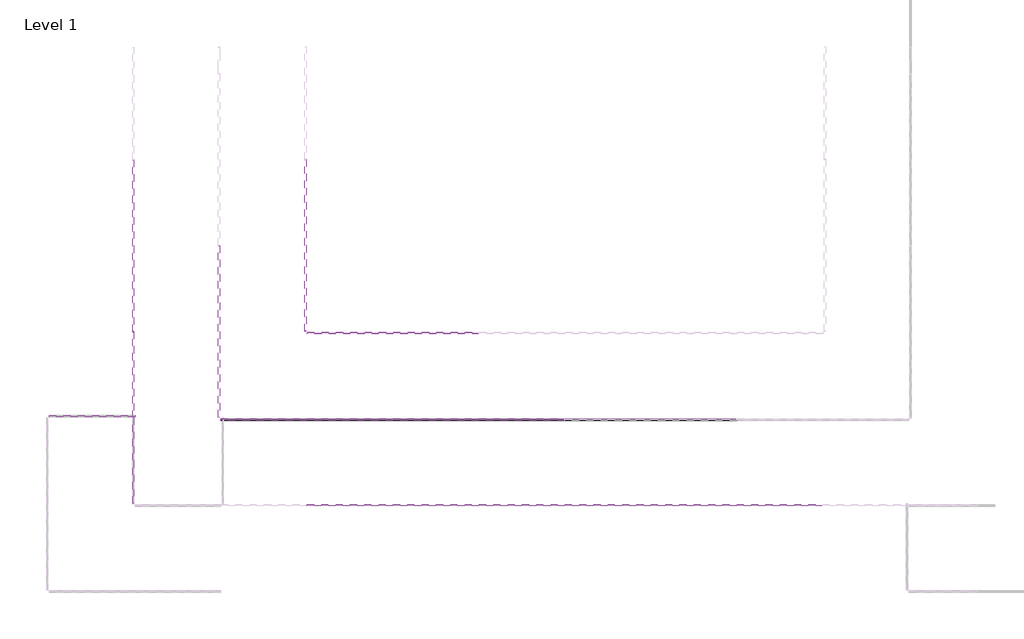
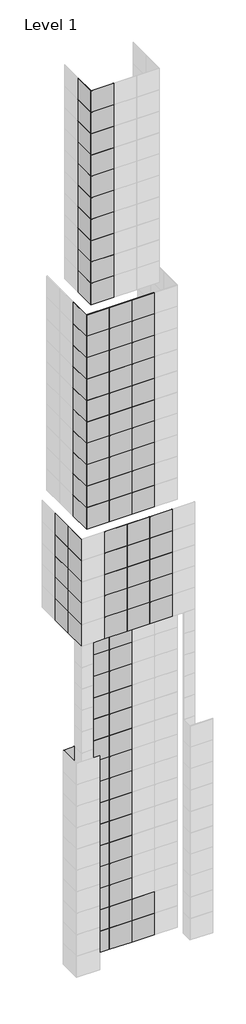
# One storey, part 5 of 15: 135 plates.
"""IFC4 building model written with IfcOpenShell, lengths in millimetres."""

from ifc_helpers import new_model, si_unit, origin, place, context, project, spatial, transform, mapped, element, save
from components import system_panel_glazed_9c75bc08, system_panel_glazed_0a0842ec, system_panel_glazed_aa64d645, system_panel_glazed_b248394d

model = new_model("IFC4")

# Units and contexts
model_context = context("Model", 3, world=origin())
ifc_project = project(units=[si_unit("LENGTHUNIT", "METRE", prefix="MILLI")], contexts=[model_context])

# Site, building, storey
site = spatial("IfcSite", under=ifc_project)
building = spatial("IfcBuilding", under=site)
storey = spatial("IfcBuildingStorey", under=building, Name="Level 1", Elevation=0.0)

# Plates
placement = place(None, origin())
system_panel_glazed_shape = system_panel_glazed_9c75bc08(model_context)
element("IfcPlate", 1, ObjectType="System Panel : Glazed", at=placement, inside=storey, context=model_context, shape_type="MappedRepresentation", body=[
    mapped(system_panel_glazed_shape, transform((35832.2903978, -3840.9095598, 6096.0), x_axis=(-1.0, 0.0, 0.0), y_axis=(0.0, -1.0, 0.0), z_axis=(0.0, 0.0, 1.0))),
])
element("IfcPlate", 2, ObjectType="System Panel : Glazed", at=placement, inside=storey, context=model_context, shape_type="MappedRepresentation", body=[
    mapped(system_panel_glazed_shape, transform((35832.2903978, -3840.9095598, 9144.0), x_axis=(-1.0, 0.0, 0.0), y_axis=(0.0, -1.0, 0.0), z_axis=(0.0, 0.0, 1.0))),
])
element("IfcPlate", 3, ObjectType="System Panel : Glazed", at=placement, inside=storey, context=model_context, shape_type="MappedRepresentation", body=[
    mapped(system_panel_glazed_shape, transform((35832.2903978, -3840.9095598, 12192.0), x_axis=(-1.0, 0.0, 0.0), y_axis=(0.0, -1.0, 0.0), z_axis=(0.0, 0.0, 1.0))),
])
element("IfcPlate", 4, ObjectType="System Panel : Glazed", at=placement, inside=storey, context=model_context, shape_type="MappedRepresentation", body=[
    mapped(system_panel_glazed_shape, transform((35832.2903978, -3840.9095598, 15240.0), x_axis=(-1.0, 0.0, 0.0), y_axis=(0.0, -1.0, 0.0), z_axis=(0.0, 0.0, 1.0))),
])
element("IfcPlate", 5, ObjectType="System Panel : Glazed", at=placement, inside=storey, context=model_context, shape_type="MappedRepresentation", body=[
    mapped(system_panel_glazed_shape, transform((35832.2903978, -3840.9095598, 18288.0), x_axis=(-1.0, 0.0, 0.0), y_axis=(0.0, -1.0, 0.0), z_axis=(0.0, 0.0, 1.0))),
])
element("IfcPlate", 6, ObjectType="System Panel : Glazed", at=placement, inside=storey, context=model_context, shape_type="MappedRepresentation", body=[
    mapped(system_panel_glazed_shape, transform((35832.2903978, -3840.9095598, 21336.0), x_axis=(-1.0, 0.0, 0.0), y_axis=(0.0, -1.0, 0.0), z_axis=(0.0, 0.0, 1.0))),
])
element("IfcPlate", 7, ObjectType="System Panel : Glazed", at=placement, inside=storey, context=model_context, shape_type="MappedRepresentation", body=[
    mapped(system_panel_glazed_shape, transform((35832.2903978, -3840.9095598, 24384.0), x_axis=(-1.0, 0.0, 0.0), y_axis=(0.0, -1.0, 0.0), z_axis=(0.0, 0.0, 1.0))),
])
element("IfcPlate", 8, ObjectType="System Panel : Glazed", at=placement, inside=storey, context=model_context, shape_type="MappedRepresentation", body=[
    mapped(system_panel_glazed_shape, transform((35832.2903978, -3840.9095598, 27432.0), x_axis=(-1.0, 0.0, 0.0), y_axis=(0.0, -1.0, 0.0), z_axis=(0.0, 0.0, 1.0))),
])
system_panel_glazed_2_shape = system_panel_glazed_0a0842ec(model_context)
element("IfcPlate", 9, ObjectType="System Panel : Glazed", at=placement, inside=storey, context=model_context, shape_type="MappedRepresentation", body=[
    mapped(system_panel_glazed_2_shape, transform((36594.2903978, -3840.9095598, 45720.0), x_axis=(0.0, -1.0, 0.0), y_axis=(1.0, 0.0, 0.0), z_axis=(0.0, 0.0, 1.0))),
])
element("IfcPlate", 10, ObjectType="System Panel : Glazed", at=placement, inside=storey, context=model_context, shape_type="MappedRepresentation", body=[
    mapped(system_panel_glazed_2_shape, transform((36594.2903978, -3840.9095598, 45720.0), x_axis=(0.0, -1.0, 0.0), y_axis=(1.0, 0.0, 0.0), z_axis=(0.0, 0.0, 1.0))),
])
system_panel_glazed_3_shape = system_panel_glazed_aa64d645(model_context)
element("IfcPlate", 11, ObjectType="System Panel : Glazed", at=placement, inside=storey, context=model_context, shape_type="MappedRepresentation", body=[
    mapped(system_panel_glazed_3_shape, transform((41166.2903978, -5364.9095598, 45720.0), x_axis=(1.0, 0.0, 0.0), y_axis=(0.0, 1.0, 0.0), z_axis=(0.0, 0.0, 1.0))),
])
element("IfcPlate", 12, ObjectType="System Panel : Glazed", at=placement, inside=storey, context=model_context, shape_type="MappedRepresentation", body=[
    mapped(system_panel_glazed_3_shape, transform((44214.2903978, -5364.9095598, 45720.0), x_axis=(1.0, 0.0, 0.0), y_axis=(0.0, 1.0, 0.0), z_axis=(0.0, 0.0, 1.0))),
])
element("IfcPlate", 13, ObjectType="System Panel : Glazed", at=placement, inside=storey, context=model_context, shape_type="MappedRepresentation", body=[
    mapped(system_panel_glazed_3_shape, transform((47262.2903978, -5364.9095598, 45720.0), x_axis=(1.0, 0.0, 0.0), y_axis=(0.0, 1.0, 0.0), z_axis=(0.0, 0.0, 1.0))),
])
element("IfcPlate", 14, ObjectType="System Panel : Glazed", at=placement, inside=storey, context=model_context, shape_type="MappedRepresentation", body=[
    mapped(system_panel_glazed_3_shape, transform((41166.2903978, -5364.9095598, 48768.0), x_axis=(1.0, 0.0, 0.0), y_axis=(0.0, 1.0, 0.0), z_axis=(0.0, 0.0, 1.0))),
])
element("IfcPlate", 15, ObjectType="System Panel : Glazed", at=placement, inside=storey, context=model_context, shape_type="MappedRepresentation", body=[
    mapped(system_panel_glazed_3_shape, transform((44214.2903978, -5364.9095598, 48768.0), x_axis=(1.0, 0.0, 0.0), y_axis=(0.0, 1.0, 0.0), z_axis=(0.0, 0.0, 1.0))),
])
element("IfcPlate", 16, ObjectType="System Panel : Glazed", at=placement, inside=storey, context=model_context, shape_type="MappedRepresentation", body=[
    mapped(system_panel_glazed_3_shape, transform((47262.2903978, -5364.9095598, 48768.0), x_axis=(1.0, 0.0, 0.0), y_axis=(0.0, 1.0, 0.0), z_axis=(0.0, 0.0, 1.0))),
])
element("IfcPlate", 17, ObjectType="System Panel : Glazed", at=placement, inside=storey, context=model_context, shape_type="MappedRepresentation", body=[
    mapped(system_panel_glazed_3_shape, transform((41166.2903978, -5364.9095598, 51816.0), x_axis=(1.0, 0.0, 0.0), y_axis=(0.0, 1.0, 0.0), z_axis=(0.0, 0.0, 1.0))),
])
element("IfcPlate", 18, ObjectType="System Panel : Glazed", at=placement, inside=storey, context=model_context, shape_type="MappedRepresentation", body=[
    mapped(system_panel_glazed_3_shape, transform((44214.2903978, -5364.9095598, 51816.0), x_axis=(1.0, 0.0, 0.0), y_axis=(0.0, 1.0, 0.0), z_axis=(0.0, 0.0, 1.0))),
])
element("IfcPlate", 19, ObjectType="System Panel : Glazed", at=placement, inside=storey, context=model_context, shape_type="MappedRepresentation", body=[
    mapped(system_panel_glazed_3_shape, transform((47262.2903978, -5364.9095598, 51816.0), x_axis=(1.0, 0.0, 0.0), y_axis=(0.0, 1.0, 0.0), z_axis=(0.0, 0.0, 1.0))),
])
element("IfcPlate", 20, ObjectType="System Panel : Glazed", at=placement, inside=storey, context=model_context, shape_type="MappedRepresentation", body=[
    mapped(system_panel_glazed_3_shape, transform((41166.2903978, -5364.9095598, 54864.0), x_axis=(1.0, 0.0, 0.0), y_axis=(0.0, 1.0, 0.0), z_axis=(0.0, 0.0, 1.0))),
])
element("IfcPlate", 21, ObjectType="System Panel : Glazed", at=placement, inside=storey, context=model_context, shape_type="MappedRepresentation", body=[
    mapped(system_panel_glazed_3_shape, transform((44214.2903978, -5364.9095598, 54864.0), x_axis=(1.0, 0.0, 0.0), y_axis=(0.0, 1.0, 0.0), z_axis=(0.0, 0.0, 1.0))),
])
element("IfcPlate", 22, ObjectType="System Panel : Glazed", at=placement, inside=storey, context=model_context, shape_type="MappedRepresentation", body=[
    mapped(system_panel_glazed_3_shape, transform((47262.2903978, -5364.9095598, 54864.0), x_axis=(1.0, 0.0, 0.0), y_axis=(0.0, 1.0, 0.0), z_axis=(0.0, 0.0, 1.0))),
])
element("IfcPlate", 23, ObjectType="System Panel : Glazed", at=placement, inside=storey, context=model_context, shape_type="MappedRepresentation", body=[
    mapped(system_panel_glazed_3_shape, transform((41166.2903978, -5364.9095598, 57912.0), x_axis=(1.0, 0.0, 0.0), y_axis=(0.0, 1.0, 0.0), z_axis=(0.0, 0.0, 1.0))),
])
element("IfcPlate", 24, ObjectType="System Panel : Glazed", at=placement, inside=storey, context=model_context, shape_type="MappedRepresentation", body=[
    mapped(system_panel_glazed_3_shape, transform((44214.2903978, -5364.9095598, 57912.0), x_axis=(1.0, 0.0, 0.0), y_axis=(0.0, 1.0, 0.0), z_axis=(0.0, 0.0, 1.0))),
])
element("IfcPlate", 25, ObjectType="System Panel : Glazed", at=placement, inside=storey, context=model_context, shape_type="MappedRepresentation", body=[
    mapped(system_panel_glazed_3_shape, transform((47262.2903978, -5364.9095598, 57912.0), x_axis=(1.0, 0.0, 0.0), y_axis=(0.0, 1.0, 0.0), z_axis=(0.0, 0.0, 1.0))),
])
element("IfcPlate", 26, ObjectType="System Panel : Glazed", at=placement, inside=storey, context=model_context, shape_type="MappedRepresentation", body=[
    mapped(system_panel_glazed_3_shape, transform((36594.2903978, -792.9095598, 45720.0), x_axis=(0.0, -1.0, 0.0), y_axis=(1.0, 0.0, 0.0), z_axis=(0.0, 0.0, 1.0))),
])
element("IfcPlate", 27, ObjectType="System Panel : Glazed", at=placement, inside=storey, context=model_context, shape_type="MappedRepresentation", body=[
    mapped(system_panel_glazed_3_shape, transform((36594.2903978, -792.9095598, 48768.0), x_axis=(0.0, -1.0, 0.0), y_axis=(1.0, 0.0, 0.0), z_axis=(0.0, 0.0, 1.0))),
])
element("IfcPlate", 28, ObjectType="System Panel : Glazed", at=placement, inside=storey, context=model_context, shape_type="MappedRepresentation", body=[
    mapped(system_panel_glazed_3_shape, transform((36594.2903978, -3840.9095598, 48768.0), x_axis=(0.0, -1.0, 0.0), y_axis=(1.0, 0.0, 0.0), z_axis=(0.0, 0.0, 1.0))),
])
element("IfcPlate", 29, ObjectType="System Panel : Glazed", at=placement, inside=storey, context=model_context, shape_type="MappedRepresentation", body=[
    mapped(system_panel_glazed_3_shape, transform((36594.2903978, -792.9095598, 51816.0), x_axis=(0.0, -1.0, 0.0), y_axis=(1.0, 0.0, 0.0), z_axis=(0.0, 0.0, 1.0))),
])
element("IfcPlate", 30, ObjectType="System Panel : Glazed", at=placement, inside=storey, context=model_context, shape_type="MappedRepresentation", body=[
    mapped(system_panel_glazed_3_shape, transform((36594.2903978, -3840.9095598, 51816.0), x_axis=(0.0, -1.0, 0.0), y_axis=(1.0, 0.0, 0.0), z_axis=(0.0, 0.0, 1.0))),
])
element("IfcPlate", 31, ObjectType="System Panel : Glazed", at=placement, inside=storey, context=model_context, shape_type="MappedRepresentation", body=[
    mapped(system_panel_glazed_3_shape, transform((36594.2903978, -792.9095598, 54864.0), x_axis=(0.0, -1.0, 0.0), y_axis=(1.0, 0.0, 0.0), z_axis=(0.0, 0.0, 1.0))),
])
element("IfcPlate", 32, ObjectType="System Panel : Glazed", at=placement, inside=storey, context=model_context, shape_type="MappedRepresentation", body=[
    mapped(system_panel_glazed_3_shape, transform((36594.2903978, -3840.9095598, 54864.0), x_axis=(0.0, -1.0, 0.0), y_axis=(1.0, 0.0, 0.0), z_axis=(0.0, 0.0, 1.0))),
])
element("IfcPlate", 33, ObjectType="System Panel : Glazed", at=placement, inside=storey, context=model_context, shape_type="MappedRepresentation", body=[
    mapped(system_panel_glazed_3_shape, transform((36594.2903978, -792.9095598, 57912.0), x_axis=(0.0, -1.0, 0.0), y_axis=(1.0, 0.0, 0.0), z_axis=(0.0, 0.0, 1.0))),
])
element("IfcPlate", 34, ObjectType="System Panel : Glazed", at=placement, inside=storey, context=model_context, shape_type="MappedRepresentation", body=[
    mapped(system_panel_glazed_3_shape, transform((36594.2903978, -3840.9095598, 57912.0), x_axis=(0.0, -1.0, 0.0), y_axis=(1.0, 0.0, 0.0), z_axis=(0.0, 0.0, 1.0))),
])
element("IfcPlate", 35, ObjectType="System Panel : Glazed", at=placement, inside=storey, context=model_context, shape_type="MappedRepresentation", body=[
    mapped(system_panel_glazed_3_shape, transform((39642.2903978, -3840.9095598, 60960.0), x_axis=(1.0, 0.0, 0.0), y_axis=(0.0, 1.0, 0.0), z_axis=(0.0, 0.0, 1.0))),
])
element("IfcPlate", 36, ObjectType="System Panel : Glazed", at=placement, inside=storey, context=model_context, shape_type="MappedRepresentation", body=[
    mapped(system_panel_glazed_3_shape, transform((42690.2903978, -3840.9095598, 60960.0), x_axis=(1.0, 0.0, 0.0), y_axis=(0.0, 1.0, 0.0), z_axis=(0.0, 0.0, 1.0))),
])
element("IfcPlate", 37, ObjectType="System Panel : Glazed", at=placement, inside=storey, context=model_context, shape_type="MappedRepresentation", body=[
    mapped(system_panel_glazed_3_shape, transform((45738.2903978, -3840.9095598, 60960.0), x_axis=(1.0, 0.0, 0.0), y_axis=(0.0, 1.0, 0.0), z_axis=(0.0, 0.0, 1.0))),
])
element("IfcPlate", 38, ObjectType="System Panel : Glazed", at=placement, inside=storey, context=model_context, shape_type="MappedRepresentation", body=[
    mapped(system_panel_glazed_3_shape, transform((39642.2903978, -3840.9095598, 64008.0), x_axis=(1.0, 0.0, 0.0), y_axis=(0.0, 1.0, 0.0), z_axis=(0.0, 0.0, 1.0))),
])
element("IfcPlate", 39, ObjectType="System Panel : Glazed", at=placement, inside=storey, context=model_context, shape_type="MappedRepresentation", body=[
    mapped(system_panel_glazed_3_shape, transform((42690.2903978, -3840.9095598, 64008.0), x_axis=(1.0, 0.0, 0.0), y_axis=(0.0, 1.0, 0.0), z_axis=(0.0, 0.0, 1.0))),
])
element("IfcPlate", 40, ObjectType="System Panel : Glazed", at=placement, inside=storey, context=model_context, shape_type="MappedRepresentation", body=[
    mapped(system_panel_glazed_3_shape, transform((45738.2903978, -3840.9095598, 64008.0), x_axis=(1.0, 0.0, 0.0), y_axis=(0.0, 1.0, 0.0), z_axis=(0.0, 0.0, 1.0))),
])
element("IfcPlate", 41, ObjectType="System Panel : Glazed", at=placement, inside=storey, context=model_context, shape_type="MappedRepresentation", body=[
    mapped(system_panel_glazed_3_shape, transform((39642.2903978, -3840.9095598, 67056.0), x_axis=(1.0, 0.0, 0.0), y_axis=(0.0, 1.0, 0.0), z_axis=(0.0, 0.0, 1.0))),
])
element("IfcPlate", 42, ObjectType="System Panel : Glazed", at=placement, inside=storey, context=model_context, shape_type="MappedRepresentation", body=[
    mapped(system_panel_glazed_3_shape, transform((42690.2903978, -3840.9095598, 67056.0), x_axis=(1.0, 0.0, 0.0), y_axis=(0.0, 1.0, 0.0), z_axis=(0.0, 0.0, 1.0))),
])
element("IfcPlate", 43, ObjectType="System Panel : Glazed", at=placement, inside=storey, context=model_context, shape_type="MappedRepresentation", body=[
    mapped(system_panel_glazed_3_shape, transform((45738.2903978, -3840.9095598, 67056.0), x_axis=(1.0, 0.0, 0.0), y_axis=(0.0, 1.0, 0.0), z_axis=(0.0, 0.0, 1.0))),
])
element("IfcPlate", 44, ObjectType="System Panel : Glazed", at=placement, inside=storey, context=model_context, shape_type="MappedRepresentation", body=[
    mapped(system_panel_glazed_3_shape, transform((39642.2903978, -3840.9095598, 70104.0), x_axis=(1.0, 0.0, 0.0), y_axis=(0.0, 1.0, 0.0), z_axis=(0.0, 0.0, 1.0))),
])
element("IfcPlate", 45, ObjectType="System Panel : Glazed", at=placement, inside=storey, context=model_context, shape_type="MappedRepresentation", body=[
    mapped(system_panel_glazed_3_shape, transform((42690.2903978, -3840.9095598, 70104.0), x_axis=(1.0, 0.0, 0.0), y_axis=(0.0, 1.0, 0.0), z_axis=(0.0, 0.0, 1.0))),
])
element("IfcPlate", 46, ObjectType="System Panel : Glazed", at=placement, inside=storey, context=model_context, shape_type="MappedRepresentation", body=[
    mapped(system_panel_glazed_3_shape, transform((45738.2903978, -3840.9095598, 70104.0), x_axis=(1.0, 0.0, 0.0), y_axis=(0.0, 1.0, 0.0), z_axis=(0.0, 0.0, 1.0))),
])
element("IfcPlate", 47, ObjectType="System Panel : Glazed", at=placement, inside=storey, context=model_context, shape_type="MappedRepresentation", body=[
    mapped(system_panel_glazed_3_shape, transform((39642.2903978, -3840.9095598, 73152.0), x_axis=(1.0, 0.0, 0.0), y_axis=(0.0, 1.0, 0.0), z_axis=(0.0, 0.0, 1.0))),
])
element("IfcPlate", 48, ObjectType="System Panel : Glazed", at=placement, inside=storey, context=model_context, shape_type="MappedRepresentation", body=[
    mapped(system_panel_glazed_3_shape, transform((42690.2903978, -3840.9095598, 73152.0), x_axis=(1.0, 0.0, 0.0), y_axis=(0.0, 1.0, 0.0), z_axis=(0.0, 0.0, 1.0))),
])
element("IfcPlate", 49, ObjectType="System Panel : Glazed", at=placement, inside=storey, context=model_context, shape_type="MappedRepresentation", body=[
    mapped(system_panel_glazed_3_shape, transform((45738.2903978, -3840.9095598, 73152.0), x_axis=(1.0, 0.0, 0.0), y_axis=(0.0, 1.0, 0.0), z_axis=(0.0, 0.0, 1.0))),
])
element("IfcPlate", 50, ObjectType="System Panel : Glazed", at=placement, inside=storey, context=model_context, shape_type="MappedRepresentation", body=[
    mapped(system_panel_glazed_3_shape, transform((39642.2903978, -3840.9095598, 76200.0), x_axis=(1.0, 0.0, 0.0), y_axis=(0.0, 1.0, 0.0), z_axis=(0.0, 0.0, 1.0))),
])
element("IfcPlate", 51, ObjectType="System Panel : Glazed", at=placement, inside=storey, context=model_context, shape_type="MappedRepresentation", body=[
    mapped(system_panel_glazed_3_shape, transform((42690.2903978, -3840.9095598, 76200.0), x_axis=(1.0, 0.0, 0.0), y_axis=(0.0, 1.0, 0.0), z_axis=(0.0, 0.0, 1.0))),
])
element("IfcPlate", 52, ObjectType="System Panel : Glazed", at=placement, inside=storey, context=model_context, shape_type="MappedRepresentation", body=[
    mapped(system_panel_glazed_3_shape, transform((45738.2903978, -3840.9095598, 76200.0), x_axis=(1.0, 0.0, 0.0), y_axis=(0.0, 1.0, 0.0), z_axis=(0.0, 0.0, 1.0))),
])
element("IfcPlate", 53, ObjectType="System Panel : Glazed", at=placement, inside=storey, context=model_context, shape_type="MappedRepresentation", body=[
    mapped(system_panel_glazed_3_shape, transform((39642.2903978, -3840.9095598, 79248.0), x_axis=(1.0, 0.0, 0.0), y_axis=(0.0, 1.0, 0.0), z_axis=(0.0, 0.0, 1.0))),
])
element("IfcPlate", 54, ObjectType="System Panel : Glazed", at=placement, inside=storey, context=model_context, shape_type="MappedRepresentation", body=[
    mapped(system_panel_glazed_3_shape, transform((42690.2903978, -3840.9095598, 79248.0), x_axis=(1.0, 0.0, 0.0), y_axis=(0.0, 1.0, 0.0), z_axis=(0.0, 0.0, 1.0))),
])
element("IfcPlate", 55, ObjectType="System Panel : Glazed", at=placement, inside=storey, context=model_context, shape_type="MappedRepresentation", body=[
    mapped(system_panel_glazed_3_shape, transform((45738.2903978, -3840.9095598, 79248.0), x_axis=(1.0, 0.0, 0.0), y_axis=(0.0, 1.0, 0.0), z_axis=(0.0, 0.0, 1.0))),
])
element("IfcPlate", 56, ObjectType="System Panel : Glazed", at=placement, inside=storey, context=model_context, shape_type="MappedRepresentation", body=[
    mapped(system_panel_glazed_3_shape, transform((39642.2903978, -3840.9095598, 82296.0), x_axis=(1.0, 0.0, 0.0), y_axis=(0.0, 1.0, 0.0), z_axis=(0.0, 0.0, 1.0))),
])
element("IfcPlate", 57, ObjectType="System Panel : Glazed", at=placement, inside=storey, context=model_context, shape_type="MappedRepresentation", body=[
    mapped(system_panel_glazed_3_shape, transform((42690.2903978, -3840.9095598, 82296.0), x_axis=(1.0, 0.0, 0.0), y_axis=(0.0, 1.0, 0.0), z_axis=(0.0, 0.0, 1.0))),
])
element("IfcPlate", 58, ObjectType="System Panel : Glazed", at=placement, inside=storey, context=model_context, shape_type="MappedRepresentation", body=[
    mapped(system_panel_glazed_3_shape, transform((45738.2903978, -3840.9095598, 82296.0), x_axis=(1.0, 0.0, 0.0), y_axis=(0.0, 1.0, 0.0), z_axis=(0.0, 0.0, 1.0))),
])
element("IfcPlate", 59, ObjectType="System Panel : Glazed", at=placement, inside=storey, context=model_context, shape_type="MappedRepresentation", body=[
    mapped(system_panel_glazed_3_shape, transform((39642.2903978, -3840.9095598, 85344.0), x_axis=(1.0, 0.0, 0.0), y_axis=(0.0, 1.0, 0.0), z_axis=(0.0, 0.0, 1.0))),
])
element("IfcPlate", 60, ObjectType="System Panel : Glazed", at=placement, inside=storey, context=model_context, shape_type="MappedRepresentation", body=[
    mapped(system_panel_glazed_3_shape, transform((42690.2903978, -3840.9095598, 85344.0), x_axis=(1.0, 0.0, 0.0), y_axis=(0.0, 1.0, 0.0), z_axis=(0.0, 0.0, 1.0))),
])
element("IfcPlate", 61, ObjectType="System Panel : Glazed", at=placement, inside=storey, context=model_context, shape_type="MappedRepresentation", body=[
    mapped(system_panel_glazed_3_shape, transform((45738.2903978, -3840.9095598, 85344.0), x_axis=(1.0, 0.0, 0.0), y_axis=(0.0, 1.0, 0.0), z_axis=(0.0, 0.0, 1.0))),
])
element("IfcPlate", 62, ObjectType="System Panel : Glazed", at=placement, inside=storey, context=model_context, shape_type="MappedRepresentation", body=[
    mapped(system_panel_glazed_3_shape, transform((39642.2903978, -3840.9095598, 88392.0), x_axis=(1.0, 0.0, 0.0), y_axis=(0.0, 1.0, 0.0), z_axis=(0.0, 0.0, 1.0))),
])
element("IfcPlate", 63, ObjectType="System Panel : Glazed", at=placement, inside=storey, context=model_context, shape_type="MappedRepresentation", body=[
    mapped(system_panel_glazed_3_shape, transform((42690.2903978, -3840.9095598, 88392.0), x_axis=(1.0, 0.0, 0.0), y_axis=(0.0, 1.0, 0.0), z_axis=(0.0, 0.0, 1.0))),
])
element("IfcPlate", 64, ObjectType="System Panel : Glazed", at=placement, inside=storey, context=model_context, shape_type="MappedRepresentation", body=[
    mapped(system_panel_glazed_3_shape, transform((45738.2903978, -3840.9095598, 88392.0), x_axis=(1.0, 0.0, 0.0), y_axis=(0.0, 1.0, 0.0), z_axis=(0.0, 0.0, 1.0))),
])
element("IfcPlate", 65, ObjectType="System Panel : Glazed", at=placement, inside=storey, context=model_context, shape_type="MappedRepresentation", body=[
    mapped(system_panel_glazed_3_shape, transform((38118.2903978, -2316.9095598, 60960.0), x_axis=(0.0, -1.0, 0.0), y_axis=(1.0, 0.0, 0.0), z_axis=(0.0, 0.0, 1.0))),
])
element("IfcPlate", 66, ObjectType="System Panel : Glazed", at=placement, inside=storey, context=model_context, shape_type="MappedRepresentation", body=[
    mapped(system_panel_glazed_3_shape, transform((38118.2903978, -2316.9095598, 64008.0), x_axis=(0.0, -1.0, 0.0), y_axis=(1.0, 0.0, 0.0), z_axis=(0.0, 0.0, 1.0))),
])
element("IfcPlate", 67, ObjectType="System Panel : Glazed", at=placement, inside=storey, context=model_context, shape_type="MappedRepresentation", body=[
    mapped(system_panel_glazed_3_shape, transform((38118.2903978, -2316.9095598, 67056.0), x_axis=(0.0, -1.0, 0.0), y_axis=(1.0, 0.0, 0.0), z_axis=(0.0, 0.0, 1.0))),
])
element("IfcPlate", 68, ObjectType="System Panel : Glazed", at=placement, inside=storey, context=model_context, shape_type="MappedRepresentation", body=[
    mapped(system_panel_glazed_3_shape, transform((38118.2903978, -2316.9095598, 70104.0), x_axis=(0.0, -1.0, 0.0), y_axis=(1.0, 0.0, 0.0), z_axis=(0.0, 0.0, 1.0))),
])
element("IfcPlate", 69, ObjectType="System Panel : Glazed", at=placement, inside=storey, context=model_context, shape_type="MappedRepresentation", body=[
    mapped(system_panel_glazed_3_shape, transform((38118.2903978, -2316.9095598, 73152.0), x_axis=(0.0, -1.0, 0.0), y_axis=(1.0, 0.0, 0.0), z_axis=(0.0, 0.0, 1.0))),
])
element("IfcPlate", 70, ObjectType="System Panel : Glazed", at=placement, inside=storey, context=model_context, shape_type="MappedRepresentation", body=[
    mapped(system_panel_glazed_3_shape, transform((38118.2903978, -2316.9095598, 76200.0), x_axis=(0.0, -1.0, 0.0), y_axis=(1.0, 0.0, 0.0), z_axis=(0.0, 0.0, 1.0))),
])
element("IfcPlate", 71, ObjectType="System Panel : Glazed", at=placement, inside=storey, context=model_context, shape_type="MappedRepresentation", body=[
    mapped(system_panel_glazed_3_shape, transform((38118.2903978, -2316.9095598, 79248.0), x_axis=(0.0, -1.0, 0.0), y_axis=(1.0, 0.0, 0.0), z_axis=(0.0, 0.0, 1.0))),
])
element("IfcPlate", 72, ObjectType="System Panel : Glazed", at=placement, inside=storey, context=model_context, shape_type="MappedRepresentation", body=[
    mapped(system_panel_glazed_3_shape, transform((38118.2903978, -2316.9095598, 82296.0), x_axis=(0.0, -1.0, 0.0), y_axis=(1.0, 0.0, 0.0), z_axis=(0.0, 0.0, 1.0))),
])
element("IfcPlate", 73, ObjectType="System Panel : Glazed", at=placement, inside=storey, context=model_context, shape_type="MappedRepresentation", body=[
    mapped(system_panel_glazed_3_shape, transform((38118.2903978, -2316.9095598, 85344.0), x_axis=(0.0, -1.0, 0.0), y_axis=(1.0, 0.0, 0.0), z_axis=(0.0, 0.0, 1.0))),
])
element("IfcPlate", 74, ObjectType="System Panel : Glazed", at=placement, inside=storey, context=model_context, shape_type="MappedRepresentation", body=[
    mapped(system_panel_glazed_3_shape, transform((38118.2903978, -2316.9095598, 88392.0), x_axis=(0.0, -1.0, 0.0), y_axis=(1.0, 0.0, 0.0), z_axis=(0.0, 0.0, 1.0))),
])
element("IfcPlate", 75, ObjectType="System Panel : Glazed", at=placement, inside=storey, context=model_context, shape_type="MappedRepresentation", body=[
    mapped(system_panel_glazed_3_shape, transform((41171.8576677, -2316.9095598, 91440.0), x_axis=(1.0, 0.0, 0.0), y_axis=(0.0, 1.0, 0.0), z_axis=(0.0, 0.0, 1.0))),
])
element("IfcPlate", 76, ObjectType="System Panel : Glazed", at=placement, inside=storey, context=model_context, shape_type="MappedRepresentation", body=[
    mapped(system_panel_glazed_3_shape, transform((41171.8576677, -2316.9095598, 94488.0), x_axis=(1.0, 0.0, 0.0), y_axis=(0.0, 1.0, 0.0), z_axis=(0.0, 0.0, 1.0))),
])
element("IfcPlate", 77, ObjectType="System Panel : Glazed", at=placement, inside=storey, context=model_context, shape_type="MappedRepresentation", body=[
    mapped(system_panel_glazed_3_shape, transform((41171.8576677, -2316.9095598, 97536.0), x_axis=(1.0, 0.0, 0.0), y_axis=(0.0, 1.0, 0.0), z_axis=(0.0, 0.0, 1.0))),
])
element("IfcPlate", 78, ObjectType="System Panel : Glazed", at=placement, inside=storey, context=model_context, shape_type="MappedRepresentation", body=[
    mapped(system_panel_glazed_3_shape, transform((41171.8576677, -2316.9095598, 100584.0), x_axis=(1.0, 0.0, 0.0), y_axis=(0.0, 1.0, 0.0), z_axis=(0.0, 0.0, 1.0))),
])
element("IfcPlate", 79, ObjectType="System Panel : Glazed", at=placement, inside=storey, context=model_context, shape_type="MappedRepresentation", body=[
    mapped(system_panel_glazed_3_shape, transform((41171.8576677, -2316.9095598, 103632.0), x_axis=(1.0, 0.0, 0.0), y_axis=(0.0, 1.0, 0.0), z_axis=(0.0, 0.0, 1.0))),
])
element("IfcPlate", 80, ObjectType="System Panel : Glazed", at=placement, inside=storey, context=model_context, shape_type="MappedRepresentation", body=[
    mapped(system_panel_glazed_3_shape, transform((41171.8576677, -2316.9095598, 106680.0), x_axis=(1.0, 0.0, 0.0), y_axis=(0.0, 1.0, 0.0), z_axis=(0.0, 0.0, 1.0))),
])
element("IfcPlate", 81, ObjectType="System Panel : Glazed", at=placement, inside=storey, context=model_context, shape_type="MappedRepresentation", body=[
    mapped(system_panel_glazed_3_shape, transform((41171.8576677, -2316.9095598, 109728.0), x_axis=(1.0, 0.0, 0.0), y_axis=(0.0, 1.0, 0.0), z_axis=(0.0, 0.0, 1.0))),
])
element("IfcPlate", 82, ObjectType="System Panel : Glazed", at=placement, inside=storey, context=model_context, shape_type="MappedRepresentation", body=[
    mapped(system_panel_glazed_3_shape, transform((41171.8576677, -2316.9095598, 112776.0), x_axis=(1.0, 0.0, 0.0), y_axis=(0.0, 1.0, 0.0), z_axis=(0.0, 0.0, 1.0))),
])
element("IfcPlate", 83, ObjectType="System Panel : Glazed", at=placement, inside=storey, context=model_context, shape_type="MappedRepresentation", body=[
    mapped(system_panel_glazed_3_shape, transform((41171.8576677, -2316.9095598, 115824.0), x_axis=(1.0, 0.0, 0.0), y_axis=(0.0, 1.0, 0.0), z_axis=(0.0, 0.0, 1.0))),
])
element("IfcPlate", 84, ObjectType="System Panel : Glazed", at=placement, inside=storey, context=model_context, shape_type="MappedRepresentation", body=[
    mapped(system_panel_glazed_3_shape, transform((41171.8576677, -2316.9095598, 118872.0), x_axis=(1.0, 0.0, 0.0), y_axis=(0.0, 1.0, 0.0), z_axis=(0.0, 0.0, 1.0))),
])
element("IfcPlate", 85, ObjectType="System Panel : Glazed", at=placement, inside=storey, context=model_context, shape_type="MappedRepresentation", body=[
    mapped(system_panel_glazed_3_shape, transform((39647.8576677, -792.9095598, 91440.0), x_axis=(0.0, -1.0, 0.0), y_axis=(1.0, 0.0, 0.0), z_axis=(0.0, 0.0, 1.0))),
])
element("IfcPlate", 86, ObjectType="System Panel : Glazed", at=placement, inside=storey, context=model_context, shape_type="MappedRepresentation", body=[
    mapped(system_panel_glazed_3_shape, transform((39647.8576677, -792.9095598, 94488.0), x_axis=(0.0, -1.0, 0.0), y_axis=(1.0, 0.0, 0.0), z_axis=(0.0, 0.0, 1.0))),
])
element("IfcPlate", 87, ObjectType="System Panel : Glazed", at=placement, inside=storey, context=model_context, shape_type="MappedRepresentation", body=[
    mapped(system_panel_glazed_3_shape, transform((39647.8576677, -792.9095598, 97536.0), x_axis=(0.0, -1.0, 0.0), y_axis=(1.0, 0.0, 0.0), z_axis=(0.0, 0.0, 1.0))),
])
element("IfcPlate", 88, ObjectType="System Panel : Glazed", at=placement, inside=storey, context=model_context, shape_type="MappedRepresentation", body=[
    mapped(system_panel_glazed_3_shape, transform((39647.8576677, -792.9095598, 100584.0), x_axis=(0.0, -1.0, 0.0), y_axis=(1.0, 0.0, 0.0), z_axis=(0.0, 0.0, 1.0))),
])
element("IfcPlate", 89, ObjectType="System Panel : Glazed", at=placement, inside=storey, context=model_context, shape_type="MappedRepresentation", body=[
    mapped(system_panel_glazed_3_shape, transform((39647.8576677, -792.9095598, 103632.0), x_axis=(0.0, -1.0, 0.0), y_axis=(1.0, 0.0, 0.0), z_axis=(0.0, 0.0, 1.0))),
])
element("IfcPlate", 90, ObjectType="System Panel : Glazed", at=placement, inside=storey, context=model_context, shape_type="MappedRepresentation", body=[
    mapped(system_panel_glazed_3_shape, transform((39647.8576677, -792.9095598, 106680.0), x_axis=(0.0, -1.0, 0.0), y_axis=(1.0, 0.0, 0.0), z_axis=(0.0, 0.0, 1.0))),
])
element("IfcPlate", 91, ObjectType="System Panel : Glazed", at=placement, inside=storey, context=model_context, shape_type="MappedRepresentation", body=[
    mapped(system_panel_glazed_3_shape, transform((39647.8576677, -792.9095598, 109728.0), x_axis=(0.0, -1.0, 0.0), y_axis=(1.0, 0.0, 0.0), z_axis=(0.0, 0.0, 1.0))),
])
element("IfcPlate", 92, ObjectType="System Panel : Glazed", at=placement, inside=storey, context=model_context, shape_type="MappedRepresentation", body=[
    mapped(system_panel_glazed_3_shape, transform((39647.8576677, -792.9095598, 112776.0), x_axis=(0.0, -1.0, 0.0), y_axis=(1.0, 0.0, 0.0), z_axis=(0.0, 0.0, 1.0))),
])
element("IfcPlate", 93, ObjectType="System Panel : Glazed", at=placement, inside=storey, context=model_context, shape_type="MappedRepresentation", body=[
    mapped(system_panel_glazed_3_shape, transform((39647.8576677, -792.9095598, 115824.0), x_axis=(0.0, -1.0, 0.0), y_axis=(1.0, 0.0, 0.0), z_axis=(0.0, 0.0, 1.0))),
])
element("IfcPlate", 94, ObjectType="System Panel : Glazed", at=placement, inside=storey, context=model_context, shape_type="MappedRepresentation", body=[
    mapped(system_panel_glazed_3_shape, transform((39647.8576677, -792.9095598, 118872.0), x_axis=(0.0, -1.0, 0.0), y_axis=(1.0, 0.0, 0.0), z_axis=(0.0, 0.0, 1.0))),
])
element("IfcPlate", 95, ObjectType="System Panel : Glazed", at=placement, inside=storey, context=model_context, shape_type="MappedRepresentation", body=[
    mapped(system_panel_glazed_3_shape, transform((36594.2903978, -792.9095598, 45720.0), x_axis=(0.0, -1.0, 0.0), y_axis=(1.0, 0.0, 0.0), z_axis=(0.0, 0.0, 1.0))),
])
element("IfcPlate", 96, ObjectType="System Panel : Glazed", at=placement, inside=storey, context=model_context, shape_type="MappedRepresentation", body=[
    mapped(system_panel_glazed_3_shape, transform((36594.2903978, -792.9095598, 48768.0), x_axis=(0.0, -1.0, 0.0), y_axis=(1.0, 0.0, 0.0), z_axis=(0.0, 0.0, 1.0))),
])
element("IfcPlate", 97, ObjectType="System Panel : Glazed", at=placement, inside=storey, context=model_context, shape_type="MappedRepresentation", body=[
    mapped(system_panel_glazed_3_shape, transform((36594.2903978, -3840.9095598, 48768.0), x_axis=(0.0, -1.0, 0.0), y_axis=(1.0, 0.0, 0.0), z_axis=(0.0, 0.0, 1.0))),
])
element("IfcPlate", 98, ObjectType="System Panel : Glazed", at=placement, inside=storey, context=model_context, shape_type="MappedRepresentation", body=[
    mapped(system_panel_glazed_3_shape, transform((36594.2903978, -792.9095598, 51816.0), x_axis=(0.0, -1.0, 0.0), y_axis=(1.0, 0.0, 0.0), z_axis=(0.0, 0.0, 1.0))),
])
element("IfcPlate", 99, ObjectType="System Panel : Glazed", at=placement, inside=storey, context=model_context, shape_type="MappedRepresentation", body=[
    mapped(system_panel_glazed_3_shape, transform((36594.2903978, -3840.9095598, 51816.0), x_axis=(0.0, -1.0, 0.0), y_axis=(1.0, 0.0, 0.0), z_axis=(0.0, 0.0, 1.0))),
])
element("IfcPlate", 100, ObjectType="System Panel : Glazed", at=placement, inside=storey, context=model_context, shape_type="MappedRepresentation", body=[
    mapped(system_panel_glazed_3_shape, transform((36594.2903978, -792.9095598, 54864.0), x_axis=(0.0, -1.0, 0.0), y_axis=(1.0, 0.0, 0.0), z_axis=(0.0, 0.0, 1.0))),
])
element("IfcPlate", 101, ObjectType="System Panel : Glazed", at=placement, inside=storey, context=model_context, shape_type="MappedRepresentation", body=[
    mapped(system_panel_glazed_3_shape, transform((36594.2903978, -3840.9095598, 54864.0), x_axis=(0.0, -1.0, 0.0), y_axis=(1.0, 0.0, 0.0), z_axis=(0.0, 0.0, 1.0))),
])
element("IfcPlate", 102, ObjectType="System Panel : Glazed", at=placement, inside=storey, context=model_context, shape_type="MappedRepresentation", body=[
    mapped(system_panel_glazed_3_shape, transform((36594.2903978, -792.9095598, 57912.0), x_axis=(0.0, -1.0, 0.0), y_axis=(1.0, 0.0, 0.0), z_axis=(0.0, 0.0, 1.0))),
])
element("IfcPlate", 103, ObjectType="System Panel : Glazed", at=placement, inside=storey, context=model_context, shape_type="MappedRepresentation", body=[
    mapped(system_panel_glazed_3_shape, transform((36594.2903978, -3840.9095598, 57912.0), x_axis=(0.0, -1.0, 0.0), y_axis=(1.0, 0.0, 0.0), z_axis=(0.0, 0.0, 1.0))),
])
system_panel_glazed_4_shape = system_panel_glazed_b248394d(model_context)
element("IfcPlate", 104, ObjectType="System Panel : Glazed", at=placement, inside=storey, context=model_context, shape_type="MappedRepresentation", body=[
    mapped(system_panel_glazed_4_shape, transform((45738.2903978, -3840.9095598, 0.0), x_axis=(-1.0, 0.0, 0.0), y_axis=(0.0, -1.0, 0.0), z_axis=(0.0, 0.0, 1.0))),
])
element("IfcPlate", 105, ObjectType="System Panel : Glazed", at=placement, inside=storey, context=model_context, shape_type="MappedRepresentation", body=[
    mapped(system_panel_glazed_4_shape, transform((42690.2903978, -3840.9095598, 0.0), x_axis=(-1.0, 0.0, 0.0), y_axis=(0.0, -1.0, 0.0), z_axis=(0.0, 0.0, 1.0))),
])
element("IfcPlate", 106, ObjectType="System Panel : Glazed", at=placement, inside=storey, context=model_context, shape_type="MappedRepresentation", body=[
    mapped(system_panel_glazed_4_shape, transform((39642.2903978, -3840.9095598, 0.0), x_axis=(-1.0, 0.0, 0.0), y_axis=(0.0, -1.0, 0.0), z_axis=(0.0, 0.0, 1.0))),
])
element("IfcPlate", 107, ObjectType="System Panel : Glazed", at=placement, inside=storey, context=model_context, shape_type="MappedRepresentation", body=[
    mapped(system_panel_glazed_4_shape, transform((45738.2903978, -3840.9095598, 3048.0), x_axis=(-1.0, 0.0, 0.0), y_axis=(0.0, -1.0, 0.0), z_axis=(0.0, 0.0, 1.0))),
])
element("IfcPlate", 108, ObjectType="System Panel : Glazed", at=placement, inside=storey, context=model_context, shape_type="MappedRepresentation", body=[
    mapped(system_panel_glazed_4_shape, transform((42690.2903978, -3840.9095598, 3048.0), x_axis=(-1.0, 0.0, 0.0), y_axis=(0.0, -1.0, 0.0), z_axis=(0.0, 0.0, 1.0))),
])
element("IfcPlate", 109, ObjectType="System Panel : Glazed", at=placement, inside=storey, context=model_context, shape_type="MappedRepresentation", body=[
    mapped(system_panel_glazed_4_shape, transform((39642.2903978, -3840.9095598, 3048.0), x_axis=(-1.0, 0.0, 0.0), y_axis=(0.0, -1.0, 0.0), z_axis=(0.0, 0.0, 1.0))),
])
element("IfcPlate", 110, ObjectType="System Panel : Glazed", at=placement, inside=storey, context=model_context, shape_type="MappedRepresentation", body=[
    mapped(system_panel_glazed_4_shape, transform((42690.2903978, -3840.9095598, 6096.0), x_axis=(-1.0, 0.0, 0.0), y_axis=(0.0, -1.0, 0.0), z_axis=(0.0, 0.0, 1.0))),
])
element("IfcPlate", 111, ObjectType="System Panel : Glazed", at=placement, inside=storey, context=model_context, shape_type="MappedRepresentation", body=[
    mapped(system_panel_glazed_4_shape, transform((39642.2903978, -3840.9095598, 6096.0), x_axis=(-1.0, 0.0, 0.0), y_axis=(0.0, -1.0, 0.0), z_axis=(0.0, 0.0, 1.0))),
])
element("IfcPlate", 112, ObjectType="System Panel : Glazed", at=placement, inside=storey, context=model_context, shape_type="MappedRepresentation", body=[
    mapped(system_panel_glazed_4_shape, transform((42690.2903978, -3840.9095598, 9144.0), x_axis=(-1.0, 0.0, 0.0), y_axis=(0.0, -1.0, 0.0), z_axis=(0.0, 0.0, 1.0))),
])
element("IfcPlate", 113, ObjectType="System Panel : Glazed", at=placement, inside=storey, context=model_context, shape_type="MappedRepresentation", body=[
    mapped(system_panel_glazed_4_shape, transform((39642.2903978, -3840.9095598, 9144.0), x_axis=(-1.0, 0.0, 0.0), y_axis=(0.0, -1.0, 0.0), z_axis=(0.0, 0.0, 1.0))),
])
element("IfcPlate", 114, ObjectType="System Panel : Glazed", at=placement, inside=storey, context=model_context, shape_type="MappedRepresentation", body=[
    mapped(system_panel_glazed_4_shape, transform((42690.2903978, -3840.9095598, 12192.0), x_axis=(-1.0, 0.0, 0.0), y_axis=(0.0, -1.0, 0.0), z_axis=(0.0, 0.0, 1.0))),
])
element("IfcPlate", 115, ObjectType="System Panel : Glazed", at=placement, inside=storey, context=model_context, shape_type="MappedRepresentation", body=[
    mapped(system_panel_glazed_4_shape, transform((39642.2903978, -3840.9095598, 12192.0), x_axis=(-1.0, 0.0, 0.0), y_axis=(0.0, -1.0, 0.0), z_axis=(0.0, 0.0, 1.0))),
])
element("IfcPlate", 116, ObjectType="System Panel : Glazed", at=placement, inside=storey, context=model_context, shape_type="MappedRepresentation", body=[
    mapped(system_panel_glazed_4_shape, transform((42690.2903978, -3840.9095598, 15240.0), x_axis=(-1.0, 0.0, 0.0), y_axis=(0.0, -1.0, 0.0), z_axis=(0.0, 0.0, 1.0))),
])
element("IfcPlate", 117, ObjectType="System Panel : Glazed", at=placement, inside=storey, context=model_context, shape_type="MappedRepresentation", body=[
    mapped(system_panel_glazed_4_shape, transform((39642.2903978, -3840.9095598, 15240.0), x_axis=(-1.0, 0.0, 0.0), y_axis=(0.0, -1.0, 0.0), z_axis=(0.0, 0.0, 1.0))),
])
element("IfcPlate", 118, ObjectType="System Panel : Glazed", at=placement, inside=storey, context=model_context, shape_type="MappedRepresentation", body=[
    mapped(system_panel_glazed_4_shape, transform((42690.2903978, -3840.9095598, 18288.0), x_axis=(-1.0, 0.0, 0.0), y_axis=(0.0, -1.0, 0.0), z_axis=(0.0, 0.0, 1.0))),
])
element("IfcPlate", 119, ObjectType="System Panel : Glazed", at=placement, inside=storey, context=model_context, shape_type="MappedRepresentation", body=[
    mapped(system_panel_glazed_4_shape, transform((39642.2903978, -3840.9095598, 18288.0), x_axis=(-1.0, 0.0, 0.0), y_axis=(0.0, -1.0, 0.0), z_axis=(0.0, 0.0, 1.0))),
])
element("IfcPlate", 120, ObjectType="System Panel : Glazed", at=placement, inside=storey, context=model_context, shape_type="MappedRepresentation", body=[
    mapped(system_panel_glazed_4_shape, transform((42690.2903978, -3840.9095598, 21336.0), x_axis=(-1.0, 0.0, 0.0), y_axis=(0.0, -1.0, 0.0), z_axis=(0.0, 0.0, 1.0))),
])
element("IfcPlate", 121, ObjectType="System Panel : Glazed", at=placement, inside=storey, context=model_context, shape_type="MappedRepresentation", body=[
    mapped(system_panel_glazed_4_shape, transform((39642.2903978, -3840.9095598, 21336.0), x_axis=(-1.0, 0.0, 0.0), y_axis=(0.0, -1.0, 0.0), z_axis=(0.0, 0.0, 1.0))),
])
element("IfcPlate", 122, ObjectType="System Panel : Glazed", at=placement, inside=storey, context=model_context, shape_type="MappedRepresentation", body=[
    mapped(system_panel_glazed_4_shape, transform((42690.2903978, -3840.9095598, 24384.0), x_axis=(-1.0, 0.0, 0.0), y_axis=(0.0, -1.0, 0.0), z_axis=(0.0, 0.0, 1.0))),
])
element("IfcPlate", 123, ObjectType="System Panel : Glazed", at=placement, inside=storey, context=model_context, shape_type="MappedRepresentation", body=[
    mapped(system_panel_glazed_4_shape, transform((39642.2903978, -3840.9095598, 24384.0), x_axis=(-1.0, 0.0, 0.0), y_axis=(0.0, -1.0, 0.0), z_axis=(0.0, 0.0, 1.0))),
])
element("IfcPlate", 124, ObjectType="System Panel : Glazed", at=placement, inside=storey, context=model_context, shape_type="MappedRepresentation", body=[
    mapped(system_panel_glazed_4_shape, transform((42690.2903978, -3840.9095598, 27432.0), x_axis=(-1.0, 0.0, 0.0), y_axis=(0.0, -1.0, 0.0), z_axis=(0.0, 0.0, 1.0))),
])
element("IfcPlate", 125, ObjectType="System Panel : Glazed", at=placement, inside=storey, context=model_context, shape_type="MappedRepresentation", body=[
    mapped(system_panel_glazed_4_shape, transform((39642.2903978, -3840.9095598, 27432.0), x_axis=(-1.0, 0.0, 0.0), y_axis=(0.0, -1.0, 0.0), z_axis=(0.0, 0.0, 1.0))),
])
element("IfcPlate", 126, ObjectType="System Panel : Glazed", at=placement, inside=storey, context=model_context, shape_type="MappedRepresentation", body=[
    mapped(system_panel_glazed_4_shape, transform((42690.2903978, -3840.9095598, 30480.0), x_axis=(-1.0, 0.0, 0.0), y_axis=(0.0, -1.0, 0.0), z_axis=(0.0, 0.0, 1.0))),
])
element("IfcPlate", 127, ObjectType="System Panel : Glazed", at=placement, inside=storey, context=model_context, shape_type="MappedRepresentation", body=[
    mapped(system_panel_glazed_4_shape, transform((39642.2903978, -3840.9095598, 30480.0), x_axis=(-1.0, 0.0, 0.0), y_axis=(0.0, -1.0, 0.0), z_axis=(0.0, 0.0, 1.0))),
])
element("IfcPlate", 128, ObjectType="System Panel : Glazed", at=placement, inside=storey, context=model_context, shape_type="MappedRepresentation", body=[
    mapped(system_panel_glazed_4_shape, transform((42690.2903978, -3840.9095598, 33528.0), x_axis=(-1.0, 0.0, 0.0), y_axis=(0.0, -1.0, 0.0), z_axis=(0.0, 0.0, 1.0))),
])
element("IfcPlate", 129, ObjectType="System Panel : Glazed", at=placement, inside=storey, context=model_context, shape_type="MappedRepresentation", body=[
    mapped(system_panel_glazed_4_shape, transform((39642.2903978, -3840.9095598, 33528.0), x_axis=(-1.0, 0.0, 0.0), y_axis=(0.0, -1.0, 0.0), z_axis=(0.0, 0.0, 1.0))),
])
element("IfcPlate", 130, ObjectType="System Panel : Glazed", at=placement, inside=storey, context=model_context, shape_type="MappedRepresentation", body=[
    mapped(system_panel_glazed_4_shape, transform((42690.2903978, -3840.9095598, 36576.0), x_axis=(-1.0, 0.0, 0.0), y_axis=(0.0, -1.0, 0.0), z_axis=(0.0, 0.0, 1.0))),
])
element("IfcPlate", 131, ObjectType="System Panel : Glazed", at=placement, inside=storey, context=model_context, shape_type="MappedRepresentation", body=[
    mapped(system_panel_glazed_4_shape, transform((39642.2903978, -3840.9095598, 36576.0), x_axis=(-1.0, 0.0, 0.0), y_axis=(0.0, -1.0, 0.0), z_axis=(0.0, 0.0, 1.0))),
])
element("IfcPlate", 132, ObjectType="System Panel : Glazed", at=placement, inside=storey, context=model_context, shape_type="MappedRepresentation", body=[
    mapped(system_panel_glazed_4_shape, transform((42690.2903978, -3840.9095598, 39624.0), x_axis=(-1.0, 0.0, 0.0), y_axis=(0.0, -1.0, 0.0), z_axis=(0.0, 0.0, 1.0))),
])
element("IfcPlate", 133, ObjectType="System Panel : Glazed", at=placement, inside=storey, context=model_context, shape_type="MappedRepresentation", body=[
    mapped(system_panel_glazed_4_shape, transform((39642.2903978, -3840.9095598, 39624.0), x_axis=(-1.0, 0.0, 0.0), y_axis=(0.0, -1.0, 0.0), z_axis=(0.0, 0.0, 1.0))),
])
element("IfcPlate", 134, ObjectType="System Panel : Glazed", at=placement, inside=storey, context=model_context, shape_type="MappedRepresentation", body=[
    mapped(system_panel_glazed_4_shape, transform((42690.2903978, -3840.9095598, 42672.0), x_axis=(-1.0, 0.0, 0.0), y_axis=(0.0, -1.0, 0.0), z_axis=(0.0, 0.0, 1.0))),
])
element("IfcPlate", 135, ObjectType="System Panel : Glazed", at=placement, inside=storey, context=model_context, shape_type="MappedRepresentation", body=[
    mapped(system_panel_glazed_4_shape, transform((39642.2903978, -3840.9095598, 42672.0), x_axis=(-1.0, 0.0, 0.0), y_axis=(0.0, -1.0, 0.0), z_axis=(0.0, 0.0, 1.0))),
])

save(model, "model.ifc")
